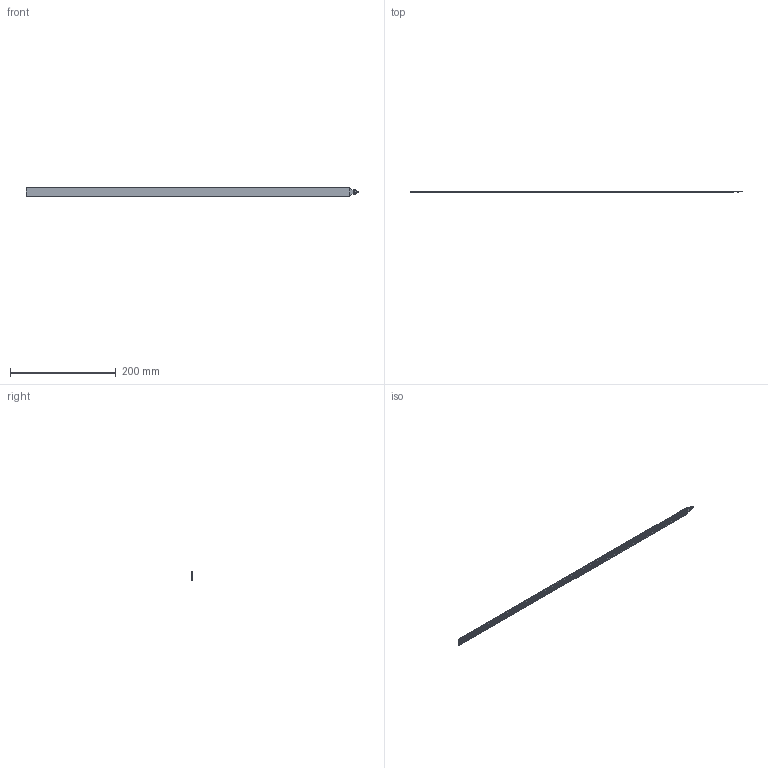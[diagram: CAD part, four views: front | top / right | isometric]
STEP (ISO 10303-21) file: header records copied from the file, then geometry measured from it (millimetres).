
FILE_DESCRIPTION (( 'STEP AP203' ), '1' );
FILE_NAME ('34-00010-FSR 408.STEP', '2012-10-01T20:01:15', ( '' ), ( '' ), 'SwSTEP 2.0', 'SolidWorks 2008', '' );
FILE_SCHEMA (( 'CONFIG_CONTROL_DESIGN' ));
Length unit declared in the file: millimetre
Products named in the file (9): 34-00010-FSR 408; 34-00010-Rear Adhesive; 34-00010-Semi-Substrate ; 34-00010-Semi; 34-00010-Spacer ; 34-00010-Conductor ; 34-00010-Cond-Substrate ; 34-00010-Gusset; SolderTab
Assembly tree (9 placements, depth 2):
  34-00010-FSR 408
    34-00010-Gusset
    SolderTab  x2
    34-00010-Cond-Substrate 
    34-00010-Rear Adhesive
    34-00010-Spacer 
    34-00010-Semi
    34-00010-Semi-Substrate 
    34-00010-Conductor 
Bounding box: 626.48 x 0.85 x 15.24 mm (x, y, z)
Volume: 3034.8 mm3; surface area: 92935 mm2
Topology: 47 solids, 47 shells, 5399 faces, 15787 edges, 10482 vertices
Faces by surface type: plane 5235, bspline 92, cylinder 72
Entity records: 177369 total; most frequent: CARTESIAN_POINT 35960, ORIENTED_EDGE 31132, DIRECTION 25898, EDGE_CURVE 15566, LINE 15326, VECTOR 15326, VERTEX_POINT 10356, EDGE_LOOP 5310
